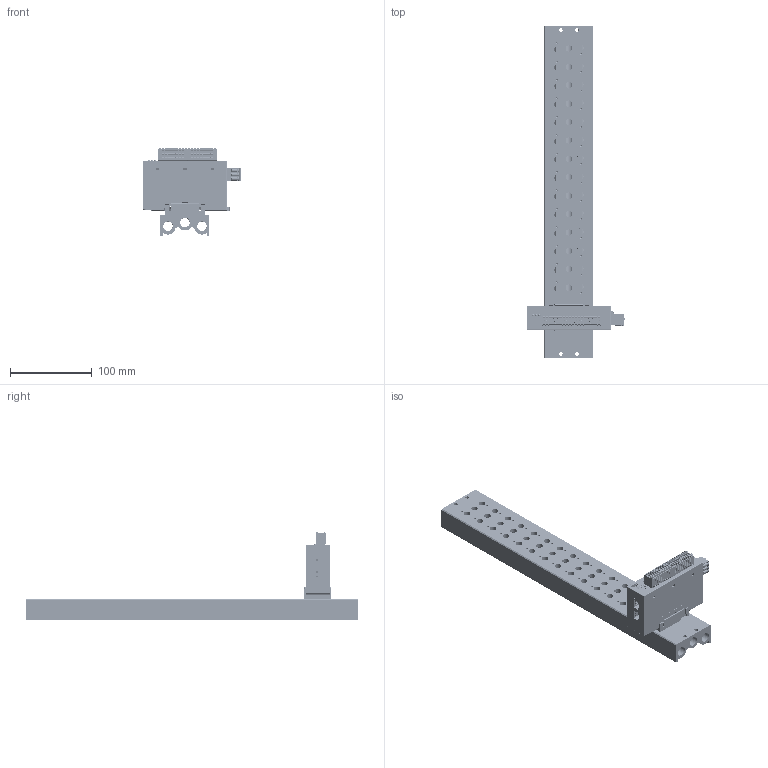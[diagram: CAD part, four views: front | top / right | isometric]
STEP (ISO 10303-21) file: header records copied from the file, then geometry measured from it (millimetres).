
FILE_DESCRIPTION(/* description */ (''),/* implementation_level */ '2;1');
FILE_NAME(/* name */ '',/* time_stamp */ '2025-10-09T15:26:59+08:00',/* author */ (''),/* organization */ (''),/* preprocessor_version */ 'ST-DEVELOPER v14',/* originating_system */ 'SIEMENS PLM Software NX 8.0',/* authorisation */ '');
FILE_SCHEMA (('AP203_CONFIGURATION_CONTROLLED_3D_DESIGN_OF_MECHANICAL_PARTS_AND_ASSEMBLIES_MIM_LF { 1 0 10303 403 2 1 2}'));
Products named in the file (1): DELL3E5857E9ub56
Bounding box: 119.8 x 406 x 108.48 mm (x, y, z)
Volume: 563986.6 mm3; surface area: 189547.3 mm2
Topology: 2 solids, 228 shells, 10004 faces, 26525 edges, 17273 vertices
Faces by surface type: plane 6503, cylinder 2304, bspline 343, torus 336, cone 243, extrusion 180, sphere 95
Full cylindrical faces by diameter (mm): 0.18 x2, 2.5 x33, 3.05 x40, 3.3 x3, 3.5 x4, 4 x4, 4.5 x4, 6 x4, 8 x42, 9.6 x1, 11.5 x3, 11.8 x6
Entity records: 329763 total; most frequent: CARTESIAN_POINT 84215, ORIENTED_EDGE 51752, DIRECTION 48815, EDGE_CURVE 25876, VECTOR 18399, LINE 18219, VERTEX_POINT 17100, AXIS2_PLACEMENT_3D 15208
